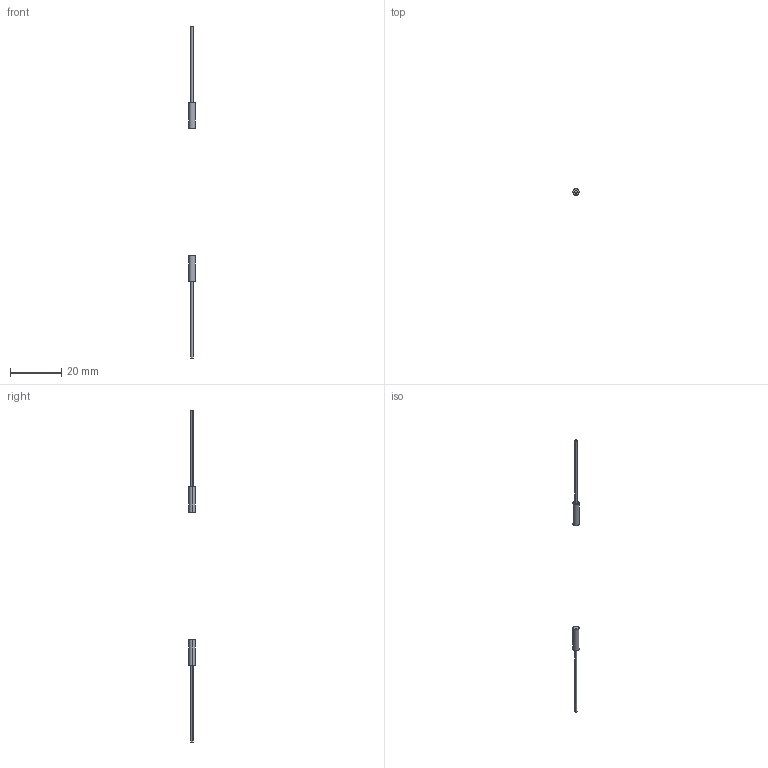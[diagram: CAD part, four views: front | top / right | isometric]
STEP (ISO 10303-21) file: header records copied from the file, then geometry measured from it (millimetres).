
FILE_DESCRIPTION (( 'STEP AP203' ), '1' );
FILE_NAME ('FQ-55.STEP', '2020-11-03T06:56:42', ( '' ), ( '' ), 'SwSTEP 2.0', 'SolidWorks 2020', '' );
FILE_SCHEMA (( 'CONFIG_CONTROL_DESIGN' ));
Length unit declared in the file: millimetre
Products named in the file (3): FQ-55_R; FQ-55_T; FQ-55
Assembly tree (2 placements, depth 2):
  FQ-55
    FQ-55_T
    FQ-55_R
Bounding box: 2.5 x 2.5 x 130 mm (x, y, z)
Volume: 145.3 mm3; surface area: 365.4 mm2
Topology: 2 solids, 2 shells, 26 faces, 48 edges, 32 vertices
Faces by surface type: cylinder 16, plane 10
Entity records: 969 total; most frequent: DIRECTION 142, CARTESIAN_POINT 111, ORIENTED_EDGE 96, AXIS2_PLACEMENT_3D 63, EDGE_CURVE 48, EDGE_LOOP 32, VERTEX_POINT 32, CIRCLE 32
